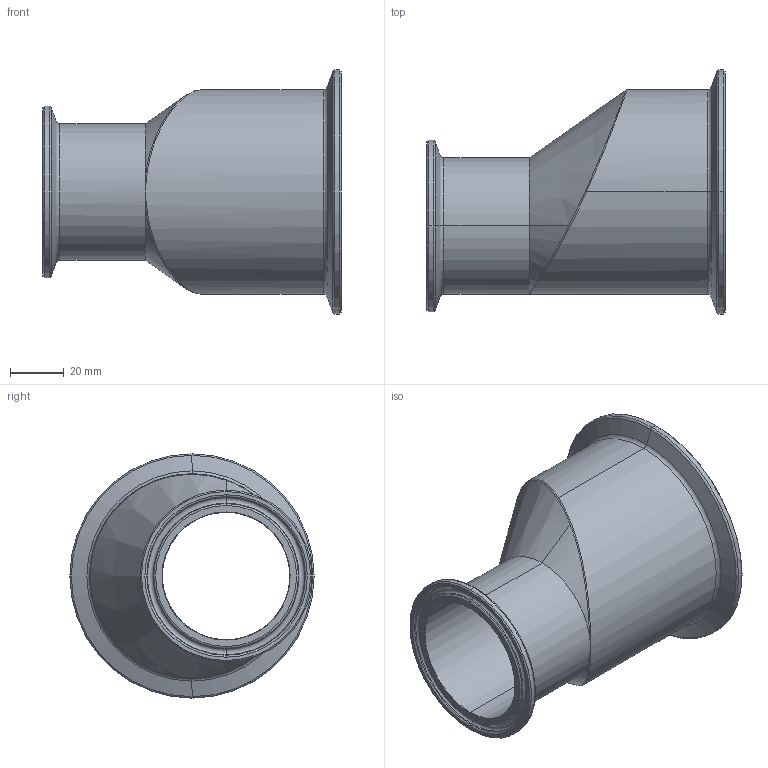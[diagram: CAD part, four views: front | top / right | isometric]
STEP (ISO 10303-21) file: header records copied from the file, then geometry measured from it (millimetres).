
FILE_DESCRIPTION (( 'STEP AP214' ), '1' );
FILE_NAME ('TEG32SCC6L3.0x2.0-...STEP', '2016-06-01T13:09:24', ( 'eran' ), ( '' ), 'SwSTEP 2.0', 'SolidWorks 2016', '' );
FILE_SCHEMA (( 'AUTOMOTIVE_DESIGN' ));
Length unit declared in the file: millimetre
Products named in the file (1): TEG32SCC6L3.0x2.0-..
Bounding box: 111.12 x 91 x 91 mm (x, y, z)
Volume: 128416.4 mm3; surface area: 49219.4 mm2
Topology: 1 solids, 1 shells, 70 faces, 150 edges, 80 vertices
Faces by surface type: torus 25, cone 24, cylinder 12, bspline 5, plane 4
Entity records: 2690 total; most frequent: CARTESIAN_POINT 1154, DIRECTION 356, ORIENTED_EDGE 292, AXIS2_PLACEMENT_3D 161, EDGE_CURVE 146, CIRCLE 95, VERTEX_POINT 80, EDGE_LOOP 74
